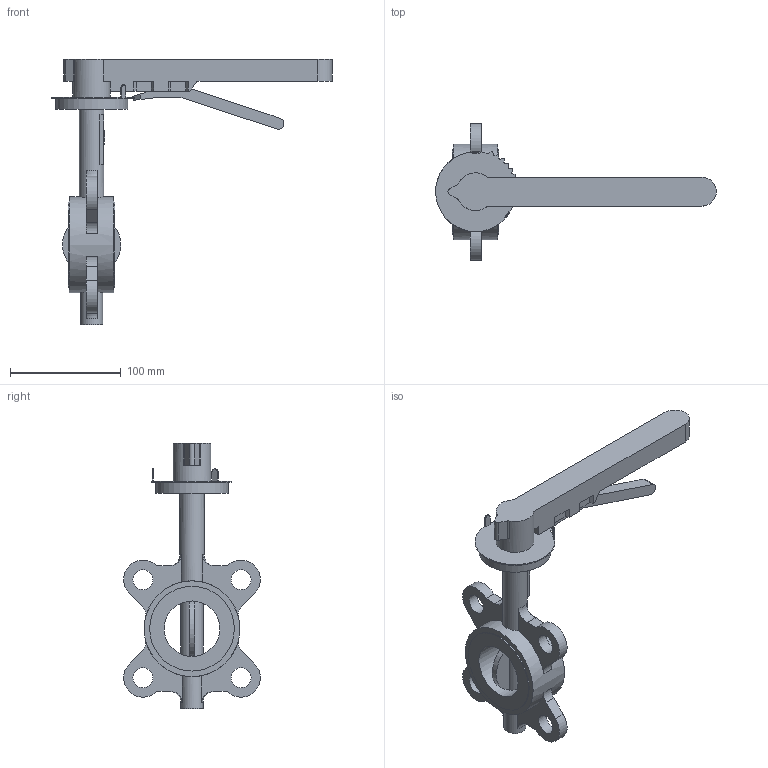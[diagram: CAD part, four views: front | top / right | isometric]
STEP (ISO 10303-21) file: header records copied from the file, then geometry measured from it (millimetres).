
FILE_DESCRIPTION(('STEP AP203'), '1');
FILE_NAME('Çàòâîð 017W.Y_DN50_ðóêîÿòü', '', ('UNSPECIFIED'), ('UNSPECIFIED'), 'ASCON STEP Converter 1.6', 'ASCON Math Kernel', '');
FILE_SCHEMA(('CONFIG_CONTROL_DESIGN'));
Length unit declared in the file: millimetre
Bounding box: 252.97 x 123.26 x 239 mm (x, y, z)
Volume: 469249.1 mm3; surface area: 91615.3 mm2
Topology: 1 solids, 1 shells, 187 faces, 499 edges, 331 vertices
Faces by surface type: plane 115, cylinder 68, torus 4
Full cylindrical faces by diameter (mm): 8 x4, 18 x4, 20 x2, 22 x1, 34 x1, 50 x1, 65 x1, 76.3 x2, 86.3 x1
Entity records: 8588 total; most frequent: CARTESIAN_POINT 2327, DIRECTION 985, ORIENTED_EDGE 964, EDGE_CURVE 482, AXIS2_PLACEMENT_3D 342, VERTEX_POINT 331, LINE 301, VECTOR 301
